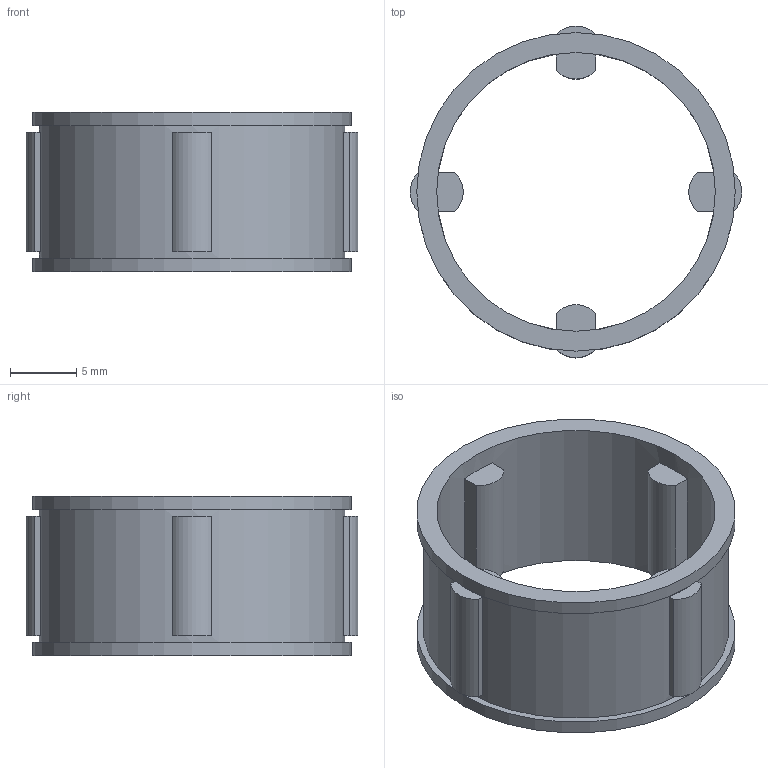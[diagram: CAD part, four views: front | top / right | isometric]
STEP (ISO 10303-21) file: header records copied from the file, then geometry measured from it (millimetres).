
FILE_DESCRIPTION(/* description */ (''),/* implementation_level */ '2;1');
FILE_NAME(/* name */ '300414 FE 425 M.stp',/* time_stamp */ '2016-11-03T13:25:26+01:00',/* author */ (''),/* organization */ (''),/* preprocessor_version */ 'ST-DEVELOPER v15',/* originating_system */ 'SIEMENS PLM Software NX 8.5',/* authorisation */ '');
FILE_SCHEMA (('CONFIG_CONTROL_DESIGN'));
Length unit declared in the file: millimetre
Products named in the file (1): ATE0000081_01
Bounding box: 25 x 25 x 12 mm (x, y, z)
Volume: 1178.5 mm3; surface area: 2160.1 mm2
Topology: 1 solids, 1 shells, 48 faces, 114 edges, 76 vertices
Faces by surface type: plane 36, cylinder 12
Full cylindrical faces by diameter (mm): 21 x1, 23 x1, 24 x2
Entity records: 1420 total; most frequent: DIRECTION 242, CARTESIAN_POINT 225, ORIENTED_EDGE 208, EDGE_CURVE 104, AXIS2_PLACEMENT_3D 89, VERTEX_POINT 72, LINE 64, VECTOR 64
